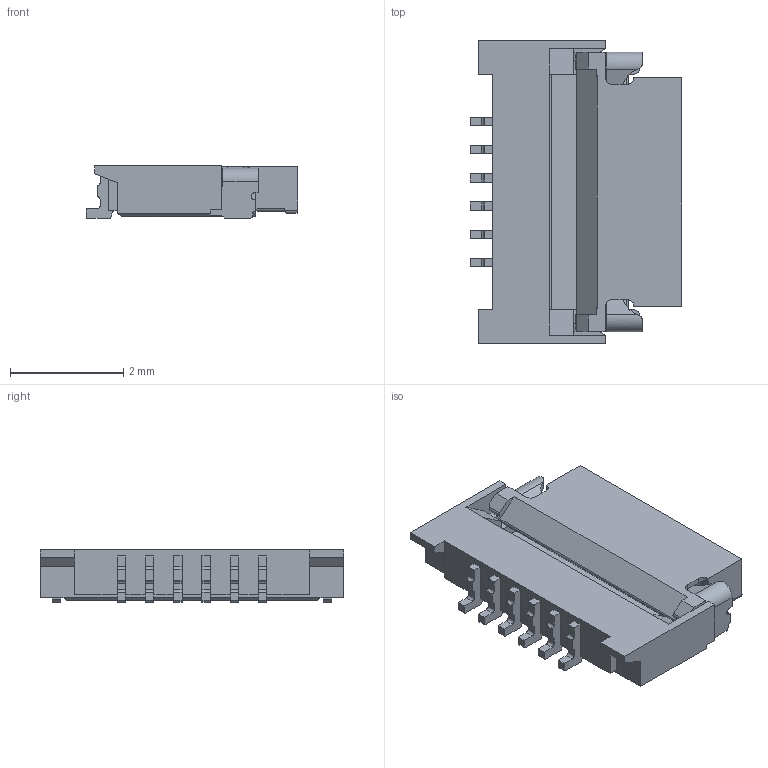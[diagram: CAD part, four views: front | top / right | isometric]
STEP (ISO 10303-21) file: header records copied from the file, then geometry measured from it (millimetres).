
FILE_DESCRIPTION (( 'STEP AP214' ), '1' );
FILE_NAME ('006809606010.STEP', '2023-02-27T02:00:07', ( '' ), ( '' ), 'SwSTEP 2.0', 'SolidWorks 2021', '' );
FILE_SCHEMA (( 'AUTOMOTIVE_DESIGN' ));
Length unit declared in the file: millimetre
Products named in the file (1): 006809606010
Bounding box: 3.75 x 5.37 x 0.93 mm (x, y, z)
Volume: 9.8 mm3; surface area: 74.7 mm2
Topology: 1 solids, 1 shells, 323 faces, 954 edges, 631 vertices
Faces by surface type: plane 228, cylinder 89, cone 4, sphere 2
Entity records: 10965 total; most frequent: CARTESIAN_POINT 2568, ORIENTED_EDGE 1908, DIRECTION 1542, EDGE_CURVE 954, VERTEX_POINT 631, VECTOR 614, LINE 614, AXIS2_PLACEMENT_3D 464
